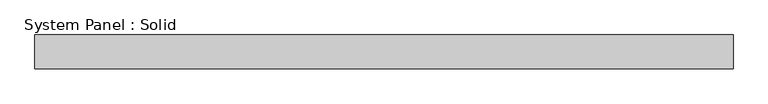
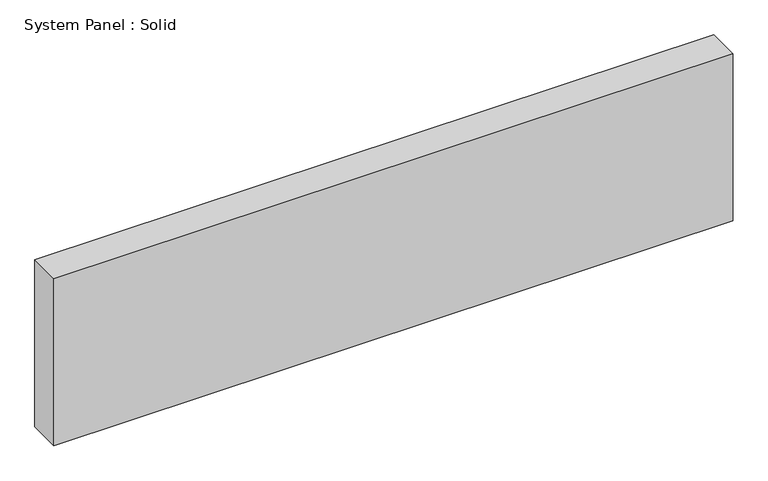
"""IFC4 building model written with IfcOpenShell, lengths in millimetres: plate geometry, System Panel : Solid."""

from ifc_helpers import new_model, si_unit, origin, origin_with_axes, place, context, project, spatial, polyline, outline, extrude, source, transform, mapped, element, save


def system_panel_solid_5dc2b9f5(model_context):
    return source(origin(), model_context, "Body", "SweptSolid", [
        extrude(outline(polyline([(655.4238159, -19.05), (-655.4238159, -19.05), (-655.4238159, 44.45), (655.4238159, 44.45), (655.4238159, -19.05)])), origin_with_axes(), (0.0, 0.0, 1.0), 341.0388226),
    ])


if __name__ == "__main__":
    model = new_model("IFC4")
    model_context = context("Model", 3, world=origin())
    ifc_project = project(units=[si_unit("LENGTHUNIT", "METRE", prefix="MILLI")], contexts=[model_context])
    site = spatial("IfcSite", under=ifc_project)
    building = spatial("IfcBuilding", under=site)
    placement = place(None, origin())
    system_panel_solid_shape = system_panel_solid_5dc2b9f5(model_context)
    element("IfcPlate", 1, ObjectType="System Panel : Solid", at=placement, inside=building, context=model_context, shape_type="MappedRepresentation", body=[
        mapped(system_panel_solid_shape, transform((0.0, 0.0, 0.0), x_axis=(1.0, 0.0, 0.0), y_axis=(0.0, 1.0, 0.0), z_axis=(0.0, 0.0, 1.0))),
    ])
    save(model, "model.ifc")
